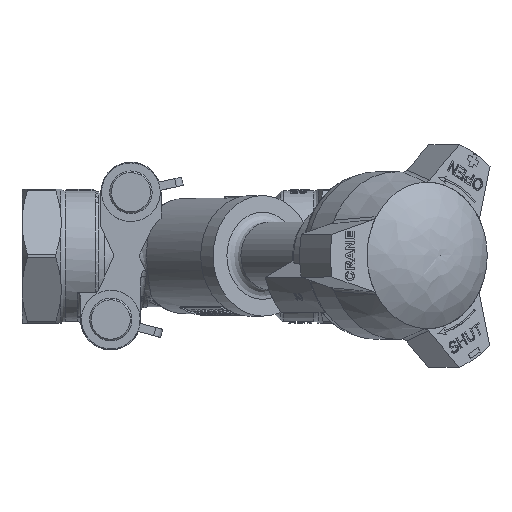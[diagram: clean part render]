
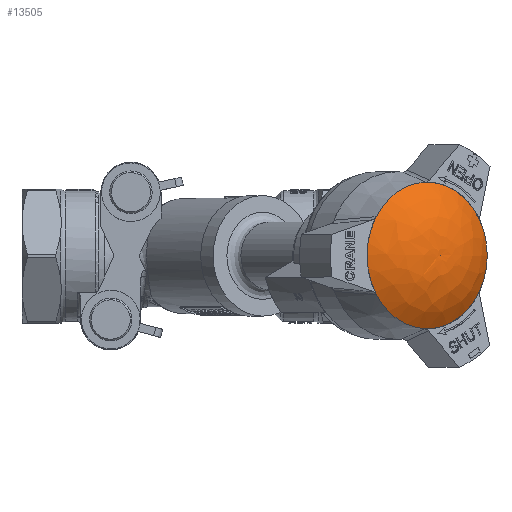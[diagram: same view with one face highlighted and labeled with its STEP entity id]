
A CAD part, top view. The second image highlights one B-rep face of the part: STEP entity #13505.
In plain terms, the highlighted free-form (B-spline) face has degree [2, 2] with [5, 9] control points.
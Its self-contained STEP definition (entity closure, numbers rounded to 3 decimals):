
#13416=CARTESIAN_POINT('',(20.981,21.883,107.019));
#13417=VERTEX_POINT('',#13416);
#13418=CARTESIAN_POINT('',(20.95,0.,107.04));
#13419=DIRECTION('',(0.574,0.,0.819));
#13420=DIRECTION('',(0.001,1.,-0.001));
#13421=AXIS2_PLACEMENT_3D('',#13418,#13419,#13420);
#13422=CIRCLE('',#13421,21.883);
#13423=EDGE_CURVE('',#13417,#13417,#13422,.T.);
#13449=CARTESIAN_POINT('',(35.832,-0.056,71.517));
#13450=CARTESIAN_POINT('',(42.108,-0.054,82.306));
#13451=CARTESIAN_POINT('',(38.907,-0.038,94.37));
#13452=CARTESIAN_POINT('',(35.707,-0.021,106.434));
#13453=CARTESIAN_POINT('',(24.908,0.,112.692));
#13454=CARTESIAN_POINT('',(35.787,-32.621,71.549));
#13455=CARTESIAN_POINT('',(42.064,-31.572,82.337));
#13456=CARTESIAN_POINT('',(38.877,-22.014,94.391));
#13457=CARTESIAN_POINT('',(35.689,-12.457,106.446));
#13458=CARTESIAN_POINT('',(24.908,0.,112.692));
#13459=CARTESIAN_POINT('',(9.111,-32.565,90.228));
#13460=CARTESIAN_POINT('',(16.246,-31.518,100.415));
#13461=CARTESIAN_POINT('',(20.874,-21.977,106.997));
#13462=CARTESIAN_POINT('',(25.503,-12.436,113.579));
#13463=CARTESIAN_POINT('',(24.908,0.,112.692));
#13464=CARTESIAN_POINT('',(-17.566,-32.51,108.907));
#13465=CARTESIAN_POINT('',(-9.573,-31.464,118.493));
#13466=CARTESIAN_POINT('',(2.872,-21.939,119.602));
#13467=CARTESIAN_POINT('',(15.316,-12.414,120.711));
#13468=CARTESIAN_POINT('',(24.908,0.,112.692));
#13469=CARTESIAN_POINT('',(-17.52,0.056,108.875));
#13470=CARTESIAN_POINT('',(-9.529,0.054,118.462));
#13471=CARTESIAN_POINT('',(2.903,0.038,119.581));
#13472=CARTESIAN_POINT('',(15.334,0.021,120.699));
#13473=CARTESIAN_POINT('',(24.908,0.,112.692));
#13474=CARTESIAN_POINT('',(-17.474,32.621,108.843));
#13475=CARTESIAN_POINT('',(-9.484,31.572,118.431));
#13476=CARTESIAN_POINT('',(2.933,22.014,119.559));
#13477=CARTESIAN_POINT('',(15.351,12.457,120.687));
#13478=CARTESIAN_POINT('',(24.908,0.,112.692));
#13479=CARTESIAN_POINT('',(9.202,32.565,90.164));
#13480=CARTESIAN_POINT('',(16.334,31.518,100.353));
#13481=CARTESIAN_POINT('',(20.936,21.977,106.954));
#13482=CARTESIAN_POINT('',(25.538,12.436,113.554));
#13483=CARTESIAN_POINT('',(24.908,0.,112.692));
#13484=CARTESIAN_POINT('',(35.878,32.51,71.486));
#13485=CARTESIAN_POINT('',(42.152,31.464,82.275));
#13486=CARTESIAN_POINT('',(38.938,21.939,94.348));
#13487=CARTESIAN_POINT('',(35.724,12.414,106.422));
#13488=CARTESIAN_POINT('',(24.908,0.,112.692));
#13489=CARTESIAN_POINT('',(35.832,-0.056,71.517));
#13490=CARTESIAN_POINT('',(42.108,-0.054,82.306));
#13491=CARTESIAN_POINT('',(38.907,-0.038,94.37));
#13492=CARTESIAN_POINT('',(35.707,-0.021,106.434));
#13493=CARTESIAN_POINT('',(24.908,0.,112.692));
#13501=(BOUNDED_SURFACE()B_SPLINE_SURFACE(2,2,((#13449,#13454,#13459,#13464,#13469,#13474,#13479,#13484,#13489),(#13450,#13455,#13460,#13465,#13470,#13475,#13480,#13485,#13490),(#13451,#13456,#13461,#13466,#13471,#13476,#13481,#13486,#13491),(#13452,#13457,#13462,#13467,#13472,#13477,#13482,#13487,#13492),(#13453,#13458,#13463,#13468,#13473,#13478,#13483,#13488,#13493)),.UNSPECIFIED.,.F.,.T.,.U.)B_SPLINE_SURFACE_WITH_KNOTS((3,2,3),(3,2,2,2,3),(0.084,0.87,1.656),(0.0,1.571,3.142,4.712,6.283),.UNSPECIFIED.)GEOMETRIC_REPRESENTATION_ITEM()RATIONAL_B_SPLINE_SURFACE(((1.0,0.707,1.0,0.707,1.0,0.707,1.0,0.707,1.0),(0.924,0.653,0.924,0.653,0.924,0.653,0.924,0.653,0.924),(1.0,0.707,1.0,0.707,1.0,0.707,1.0,0.707,1.0),(0.924,0.653,0.924,0.653,0.924,0.653,0.924,0.653,0.924),(1.0,0.707,1.0,0.707,1.0,0.707,1.0,0.707,1.0)))REPRESENTATION_ITEM('')SURFACE());
#13502=ORIENTED_EDGE('',*,*,#13423,.T.);
#13503=EDGE_LOOP('',(#13502));
#13504=FACE_OUTER_BOUND('',#13503,.T.);
#13505=ADVANCED_FACE('',(#13504),#13501,.T.);
